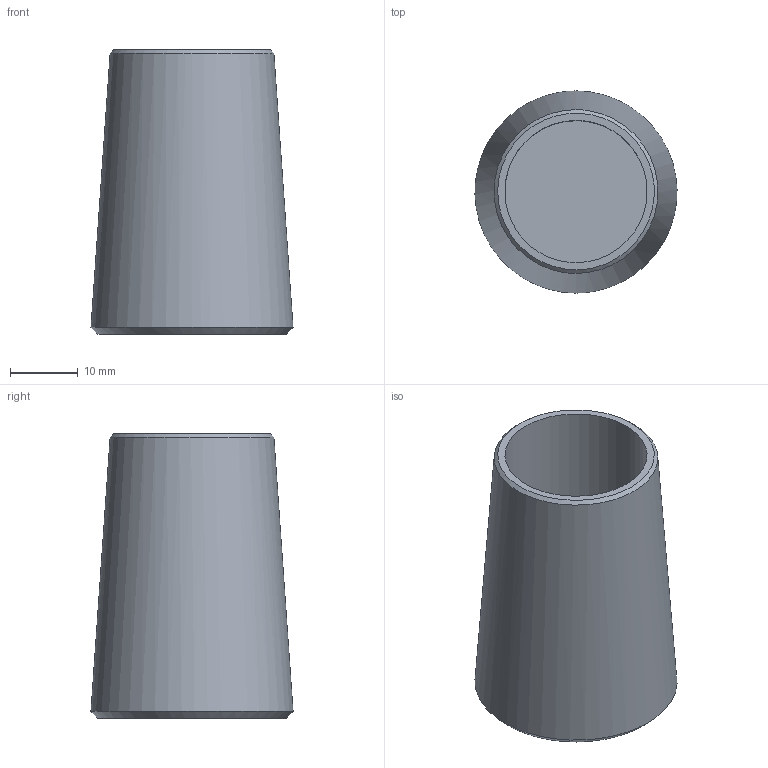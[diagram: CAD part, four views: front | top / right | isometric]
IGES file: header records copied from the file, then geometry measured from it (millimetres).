
Global section: file name: 520-020-KMU; native system: Autodesk Inventor 2016; preprocessor: unknown; author: BAYR; date: 20200618.122415; units: millimetre
Bounding box: 29.85 x 29.86 x 42 mm (x, y, z)
Volume: 13121.1 mm3; surface area: 6775.2 mm2
Topology: 1 solids, 1 shells, 7 faces, 14 edges, 10 vertices
Faces by surface type: bspline 7
